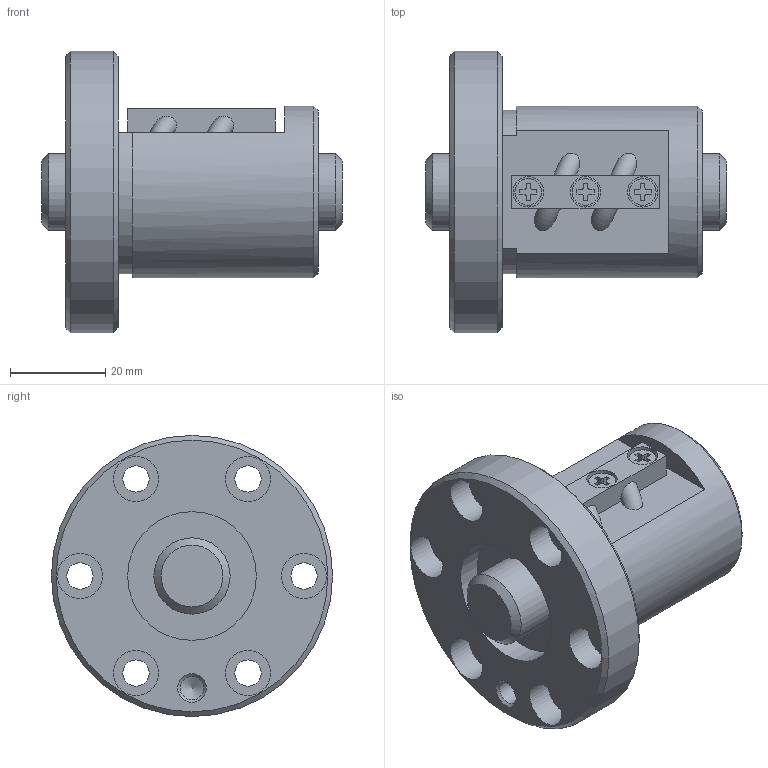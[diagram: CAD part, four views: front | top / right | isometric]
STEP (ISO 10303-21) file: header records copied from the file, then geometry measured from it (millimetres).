
FILE_DESCRIPTION(/* description */ ('STEP AP203'),/* implementation_level */ '2;1');
FILE_NAME(/* name */ 'SBN1604V-5G0+63LC0(0000)',/* time_stamp */ '2024-05-28T10:23:50+02:00',/* author */ ('License CC BY-ND 4.0'),/* organization */ ('CADENAS'),/* preprocessor_version */ 'ST-DEVELOPER v19.3',/* originating_system */ 'PARTsolutions',/* authorisation */ ' ');
FILE_SCHEMA (('CONFIG_CONTROL_DESIGN'));
Length unit declared in the file: millimetre
Products named in the file (3): SBN1604V-5G0+63LC0(0000); N010SBN1604V-50Shaft; N00SBN1604V-5Nut
Assembly tree (2 placements, depth 2):
  SBN1604V-5G0+63LC0(0000)
    N010SBN1604V-50Shaft
    N00SBN1604V-5Nut
Bounding box: 63 x 59 x 59 mm (x, y, z)
Volume: 64926.6 mm3; surface area: 20406.8 mm2
Topology: 2 solids, 2 shells, 121 faces, 279 edges, 184 vertices
Faces by surface type: plane 69, cylinder 41, cone 7, torus 4
Full cylindrical faces by diameter (mm): 4.8 x3, 4.917 x1, 5.5 x6, 5.6 x3, 6.4 x3, 9.5 x6, 16 x2, 27 x2, 36 x1, 59 x1
Entity records: 3403 total; most frequent: CARTESIAN_POINT 627, DIRECTION 570, ORIENTED_EDGE 482, EDGE_CURVE 241, AXIS2_PLACEMENT_3D 213, FACE_BOUND 193, EDGE_LOOP 192, VERTEX_POINT 182
